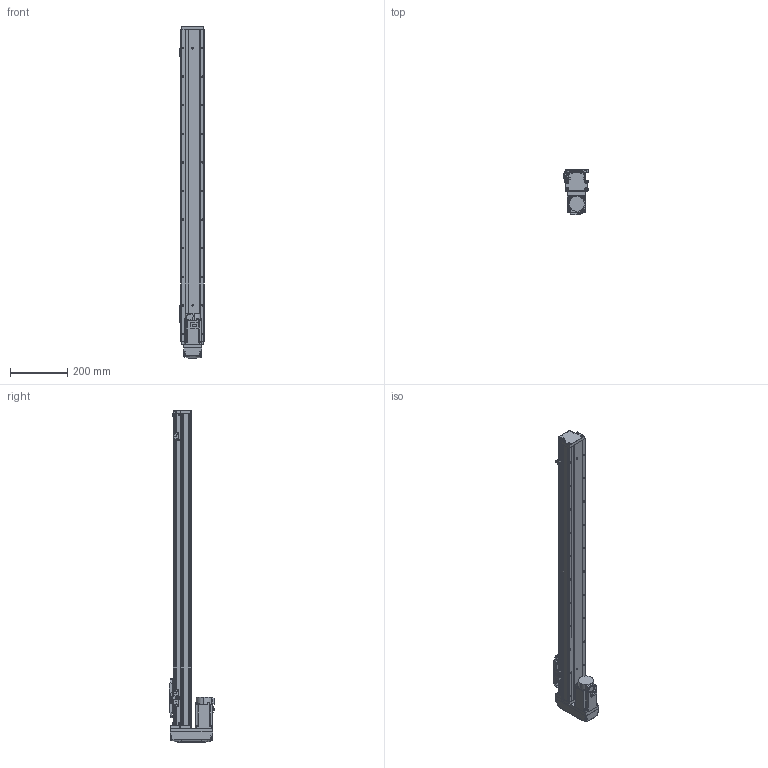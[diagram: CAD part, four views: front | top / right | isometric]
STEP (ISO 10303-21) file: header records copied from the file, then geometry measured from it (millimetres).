
FILE_DESCRIPTION (( 'STEP AP203' ), '1' );
FILE_NAME ('GTH8-900-BM-M20-C4.step', '2022-09-23T01:06:55', ( '微软用户' ), ( '微软中国' ), 'SwSTEP 2.0', 'SolidWorks 2020', '' );
FILE_SCHEMA (( 'CONFIG_CONTROL_DESIGN' ));
Length unit declared in the file: millimetre
Products named in the file (18): GTH80-001_900; GBT 70.1-M3℅6; BTH-M3X5X6; GTH80-003; GBT 70.1-M4×16; hg-kn43j_-s100_; GTH80-004; GTH80-028; CTHA86-015-1_CTHA86-015-2; GTH80-006; GTH50-024; CTHA86-033_M40B; GTH80-013; GTH50-023; GTH8-900-BM-M20-C4; GBT 70.3-M3℅6; GBT96.1-2002 3×0.8; GTH80-022
Assembly tree (57 placements, depth 2):
  GTH8-900-BM-M20-C4
    GTH80-001_900
    GTH80-003
    GTH80-004
    GTH80-006
    GTH80-013
    GBT 70.3-M3℅6  x4
    GTH80-022
    GBT 70.1-M3℅6  x14
    GBT 70.1-M4×16  x8
    GTH80-028  x2
    GTH50-024  x3
    GTH50-023  x3
    GBT96.1-2002 3×0.8  x6
    BTH-M3X5X6  x8
    hg-kn43j_-s100_
    CTHA86-015-1_CTHA86-015-2
    CTHA86-033_M40B
Bounding box: 86.9 x 160.3 x 1161 mm (x, y, z)
Volume: 5707901.3 mm3; surface area: 563650.6 mm2
Topology: 59 solids, 59 shells, 2252 faces, 5211 edges, 3195 vertices
Faces by surface type: plane 1187, cylinder 623, cone 260, torus 166, bspline 8, sphere 8
Entity records: 41366 total; most frequent: CARTESIAN_POINT 7265, DIRECTION 6733, ORIENTED_EDGE 6240, EDGE_CURVE 3120, AXIS2_PLACEMENT_3D 2361, LINE 2011, VECTOR 2011, VERTEX_POINT 1970
